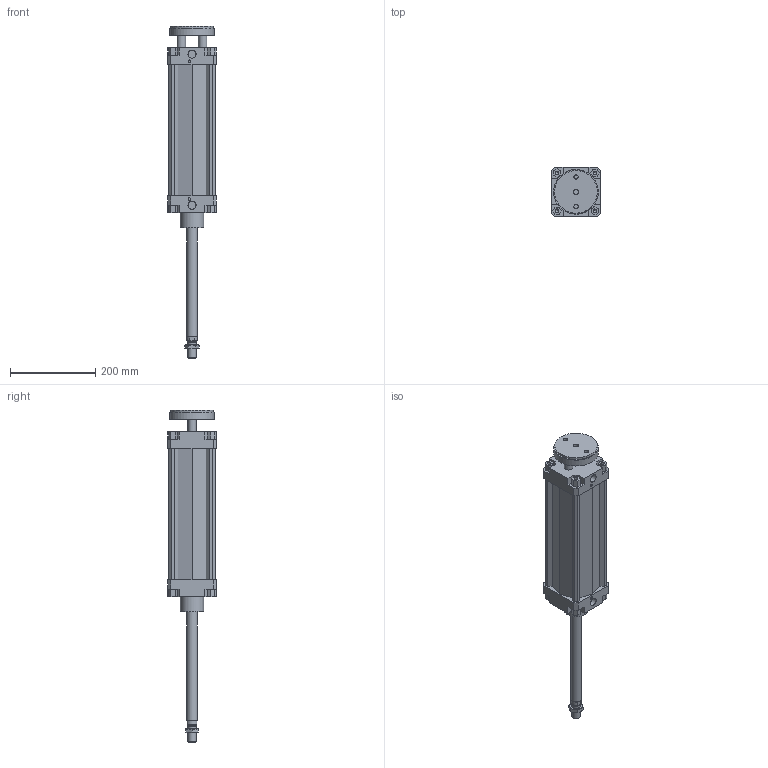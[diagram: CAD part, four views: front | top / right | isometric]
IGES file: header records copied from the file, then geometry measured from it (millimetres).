
Global section: file name: 132#_100_0250_02; native system: Autodesk Inventor 2014; preprocessor: unknown; author: A. Manieri; date: 20161006.163727; units: millimetre
Bounding box: 115 x 115 x 780 mm (x, y, z)
Volume: 2776577 mm3; surface area: 478762.6 mm2
Topology: 3 solids, 3 shells, 220 faces, 589 edges, 397 vertices
Faces by surface type: bspline 220
